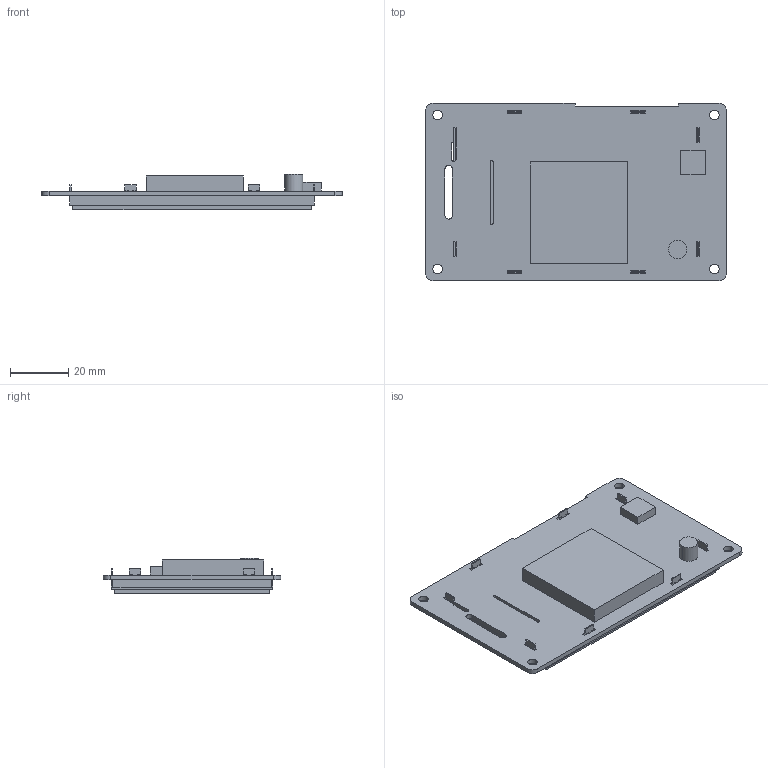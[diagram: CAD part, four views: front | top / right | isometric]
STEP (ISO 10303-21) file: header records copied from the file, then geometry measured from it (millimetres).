
FILE_DESCRIPTION((''),'2;1');
FILE_NAME('3D-DMG48320C035-03WTR','2025-10-21T',('Administrator'),(''),'PRO/ENGINEER BY PARAMETRIC TECHNOLOGY CORPORATION, 2014320','PRO/ENGINEER BY PARAMETRIC TECHNOLOGY CORPORATION, 2014320','');
FILE_SCHEMA(('AUTOMOTIVE_DESIGN_CC2 { 1 2 10303 214 -1 1 5 2 }'));
Products named in the file (1): 3D-DMG48320C035-03WTR
Bounding box: 103.25 x 61.09 x 12.2 mm (x, y, z)
Volume: 33512.8 mm3; surface area: 33526 mm2
Topology: 1 solids, 2 shells, 179 faces, 6981 edges, 11071 vertices
Faces by surface type: plane 159, cylinder 20
Entity records: 59771 total; most frequent: DIRECTION 9563, CARTESIAN_POINT 7516, CURVE_STYLE 6438, PRESENTATION_STYLE_ASSIGNMENT 6438, STYLED_ITEM 6438, TRIMMED_CURVE 6437, VECTOR 4757, LINE 4757
